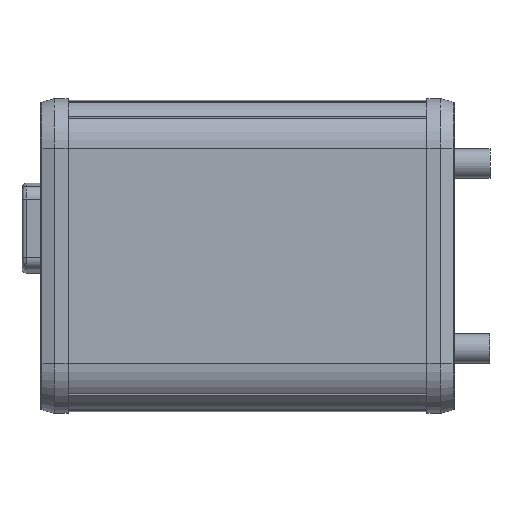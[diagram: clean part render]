
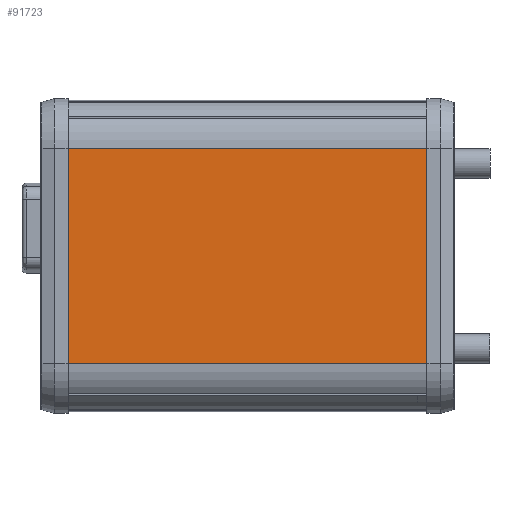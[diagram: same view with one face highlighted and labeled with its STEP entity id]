
A CAD part, front view. The second image highlights one B-rep face of the part: STEP entity #91723.
In plain terms, the highlighted planar face has unit normal (0, -1, 0) as drawn and (-1, 0, 0) by its records, which use the part's own axes.
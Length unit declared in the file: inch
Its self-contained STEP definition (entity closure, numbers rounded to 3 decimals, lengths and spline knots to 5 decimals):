
#5911 = ORIENTED_EDGE ( 'NONE', *, *, #88835, .T. ) ;
#6724 = CARTESIAN_POINT ( 'NONE',  ( 8.51876, 7.51789, 0. ) ) ;
#7441 = LINE ( 'NONE', #36933, #34852 ) ;
#9754 = CARTESIAN_POINT ( 'NONE',  ( 8.51876, 0., 0. ) ) ;
#11717 = LINE ( 'NONE', #48113, #60815 ) ;
#14339 = CARTESIAN_POINT ( 'NONE',  ( 8.51876, 0., 2.55906 ) ) ;
#16072 = AXIS2_PLACEMENT_3D ( 'NONE', #14339, #97575, #42176 ) ;
#30321 = FACE_OUTER_BOUND ( 'NONE', #49808, .T. ) ;
#34852 = VECTOR ( 'NONE', #110917, 39.37008 ) ;
#35619 = VECTOR ( 'NONE', #101469, 39.37008 ) ;
#36933 = CARTESIAN_POINT ( 'NONE',  ( 8.51876, 0., 2.55906 ) ) ;
#37600 = DIRECTION ( 'NONE',  ( 0., -1., 0. ) ) ;
#39164 = VERTEX_POINT ( 'NONE', #6724 ) ;
#42176 = DIRECTION ( 'NONE',  ( 0., 1., 0. ) ) ;
#44980 = ORIENTED_EDGE ( 'NONE', *, *, #111721, .T. ) ;
#46054 = CARTESIAN_POINT ( 'NONE',  ( 8.51876, 7.51789, 2.55906 ) ) ;
#48113 = CARTESIAN_POINT ( 'NONE',  ( 8.51876, 9.05332, 2.55906 ) ) ;
#48124 = EDGE_CURVE ( 'NONE', #110232, #94434, #7441, .T. ) ;
#48771 = VERTEX_POINT ( 'NONE', #64651 ) ;
#49808 = EDGE_LOOP ( 'NONE', ( #5911, #76266, #101377, #44980 ) ) ;
#57357 = LINE ( 'NONE', #46054, #35619 ) ;
#60815 = VECTOR ( 'NONE', #112830, 39.37008 ) ;
#64651 = CARTESIAN_POINT ( 'NONE',  ( 8.51876, 9.05332, 0. ) ) ;
#72408 = EDGE_CURVE ( 'NONE', #94434, #39164, #57357, .T. ) ;
#72653 = VECTOR ( 'NONE', #37600, 39.37008 ) ;
#75625 = LINE ( 'NONE', #9754, #72653 ) ;
#75657 = CARTESIAN_POINT ( 'NONE',  ( 8.51876, 9.05332, 2.55906 ) ) ;
#76266 = ORIENTED_EDGE ( 'NONE', *, *, #72408, .F. ) ;
#79037 = PLANE ( 'NONE',  #16072 ) ;
#88346 = CARTESIAN_POINT ( 'NONE',  ( 8.51876, 7.51789, 2.55906 ) ) ;
#88835 = EDGE_CURVE ( 'NONE', #48771, #39164, #75625, .T. ) ;
#91723 = ADVANCED_FACE ( 'NONE', ( #30321 ), #79037, .F. ) ;
#94434 = VERTEX_POINT ( 'NONE', #88346 ) ;
#97575 = DIRECTION ( 'NONE',  ( 1., 0., 0. ) ) ;
#101377 = ORIENTED_EDGE ( 'NONE', *, *, #48124, .F. ) ;
#101469 = DIRECTION ( 'NONE',  ( 0., 0., -1. ) ) ;
#110232 = VERTEX_POINT ( 'NONE', #75657 ) ;
#110917 = DIRECTION ( 'NONE',  ( 0., -1., 0. ) ) ;
#111721 = EDGE_CURVE ( 'NONE', #110232, #48771, #11717, .T. ) ;
#112830 = DIRECTION ( 'NONE',  ( 0., 0., -1. ) ) ;
